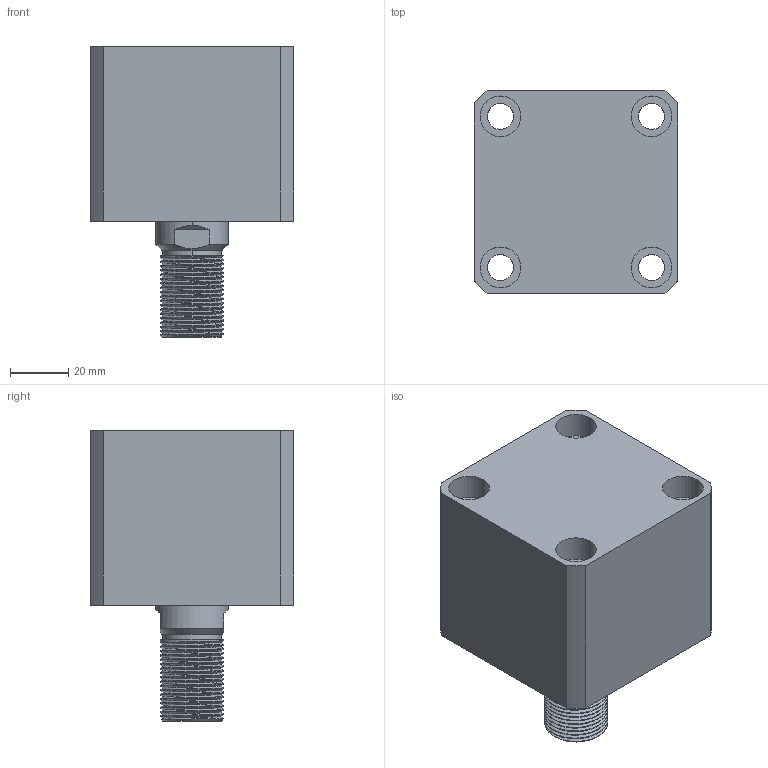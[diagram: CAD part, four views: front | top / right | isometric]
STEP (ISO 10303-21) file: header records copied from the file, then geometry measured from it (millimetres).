
FILE_DESCRIPTION (( 'STEP AP214' ), '1' );
FILE_NAME ('chtb-sd40x5w_asm.STEP', '2018-06-08T06:53:50', ( 'Windows' ), ( 'Microsoft' ), 'SwSTEP 2.0', 'SolidWorks 2015', '' );
FILE_SCHEMA (( 'AUTOMOTIVE_DESIGN' ));
Length unit declared in the file: millimetre
Products named in the file (4): CHTB-SD40X5WHSG; CHTB-SD40X5NBT; CHTB-SD40QG; chtb-sd40x5w_asm
Assembly tree (3 placements, depth 2):
  chtb-sd40x5w_asm
    CHTB-SD40QG
    CHTB-SD40X5NBT
    CHTB-SD40X5WHSG
Bounding box: 70 x 70 x 100 mm (x, y, z)
Volume: 275839.3 mm3; surface area: 63797.3 mm2
Topology: 3 solids, 4 shells, 203 faces, 533 edges, 355 vertices
Faces by surface type: cylinder 118, plane 40, bspline 16, cone 15, torus 14
Entity records: 13425 total; most frequent: CARTESIAN_POINT 8554, ORIENTED_EDGE 1054, DIRECTION 914, EDGE_CURVE 527, AXIS2_PLACEMENT_3D 380, VERTEX_POINT 355, EDGE_LOOP 240, FACE_OUTER_BOUND 203
